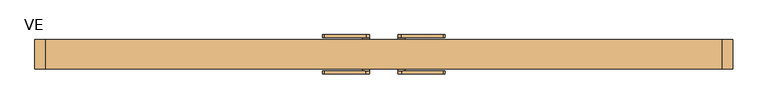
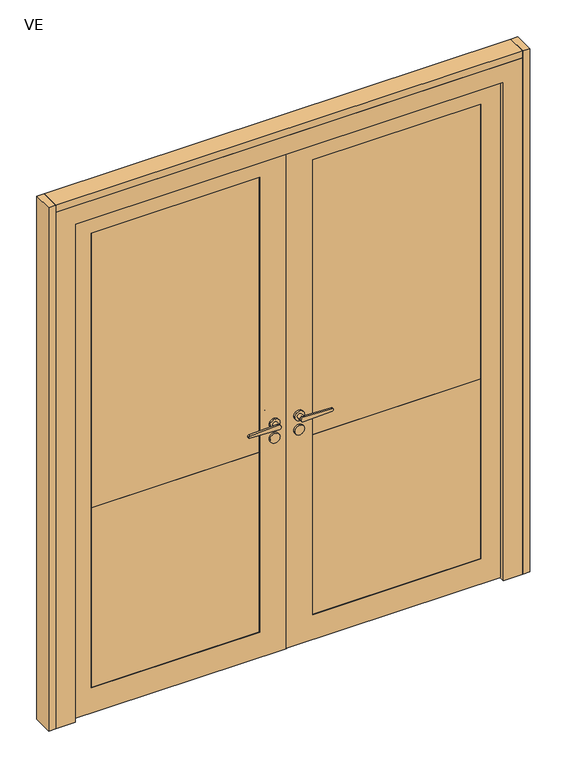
"""IFC4 building model written with IfcOpenShell, lengths in millimetres: door geometry, Mobiliário_Mobiliário de Escritório_Porta Dupla de Giro Mista Vidro Duplo com Persiana - VE_Marelli : VE."""

from ifc_helpers import new_model, si_unit, point, frame, frame_2d, origin, origin_with_axes, place, context, project, spatial, polyline, circle_curve, trimmed, segment, composite_curve, outline, extrude, faceted_brep, source, transform, mapped, element, save


def ve_1859068e(model_context):
    return source(origin(), model_context, "Body", "SolidModel", [
        extrude(outline(polyline([(-1000.0, 42.5), (-970.0, 42.5), (-970.0, -42.5), (-1000.0, -42.5), (-1000.0, 42.5)])), origin_with_axes(), (0.0, 0.0, 1.0), 2300.0),
        extrude(outline(polyline([(1000.0, 42.5), (1000.0, -42.5), (970.0, -42.5), (970.0, 42.5), (1000.0, 42.5)])), origin_with_axes(), (0.0, 0.0, 1.0), 2300.0),
        extrude(outline(polyline([(2219.5, 0.75), (0.5, 0.75), (0.5, 919.5), (2219.5, 919.5), (2219.5, 0.75)]), holes=[polyline([(110.5, 809.5), (110.5, 110.75), (2109.5, 110.75), (2109.5, 809.5), (110.5, 809.5)])]), frame((0.0, -21.0, 0.0), z_axis=(0.0, 1.0, 0.0), x_axis=(0.0, 0.0, 1.0)), (0.0, 0.0, 1.0), 42.0),
        extrude(outline(polyline([(809.5, 18.5), (809.5, 12.5), (110.75, 12.5), (110.75, 18.5), (809.5, 18.5)])), frame((0.0, 0.0, 900.5), z_axis=(0.0, 0.0, 1.0), x_axis=(1.0, 0.0, 0.0)), (0.0, 0.0, 1.0), 1209.0),
        extrude(outline(polyline([(809.5, -18.5), (110.75, -18.5), (110.75, -12.5), (809.5, -12.5), (809.5, -18.5)])), frame((0.0, 0.0, 900.5), z_axis=(0.0, 0.0, 1.0), x_axis=(1.0, 0.0, 0.0)), (0.0, 0.0, 1.0), 1209.0),
        extrude(outline(polyline([(2219.5, -0.75), (2219.5, -919.55), (0.5, -919.55), (0.5, -0.75), (2219.5, -0.75)]), holes=[polyline([(110.5, -809.55), (2109.5, -809.55), (2109.5, -110.75), (110.5, -110.75), (110.5, -809.55)])]), frame((0.0, -21.0, 0.0), z_axis=(0.0, 1.0, 0.0), x_axis=(0.0, 0.0, 1.0)), (0.0, 0.0, 1.0), 42.0),
        extrude(outline(polyline([(-809.55, 18.5), (-110.75, 18.5), (-110.75, 12.5), (-809.55, 12.5), (-809.55, 18.5)])), frame((0.0, 0.0, 900.5), z_axis=(0.0, 0.0, 1.0), x_axis=(1.0, 0.0, 0.0)), (0.0, 0.0, 1.0), 1209.0),
        extrude(outline(polyline([(-809.55, -18.5), (-809.55, -12.5), (-110.75, -12.5), (-110.75, -18.5), (-809.55, -18.5)])), frame((0.0, 0.0, 900.5), z_axis=(0.0, 0.0, 1.0), x_axis=(1.0, 0.0, 0.0)), (0.0, 0.0, 1.0), 1209.0),
        extrude(outline(polyline([(809.5, 6.8783978), (809.5, -9.1216022), (110.75, -9.1216022), (110.75, 6.8783978), (809.5, 6.8783978)])), frame((0.0, 0.0, 1190.7), z_axis=(0.0, 0.0, 1.0), x_axis=(1.0, 0.0, 0.0)), (0.0, 0.0, 1.0), 0.8),
        extrude(outline(polyline([(809.5, 6.8783978), (809.5, -9.1216022), (110.75, -9.1216022), (110.75, 6.8783978), (809.5, 6.8783978)])), frame((0.0, 0.0, 1160.7), z_axis=(0.0, 0.0, 1.0), x_axis=(1.0, 0.0, 0.0)), (0.0, 0.0, 1.0), 0.8),
        extrude(outline(polyline([(809.5, 6.8783978), (809.5, -9.1216022), (110.75, -9.1216022), (110.75, 6.8783978), (809.5, 6.8783978)])), frame((0.0, 0.0, 1130.7), z_axis=(0.0, 0.0, 1.0), x_axis=(1.0, 0.0, 0.0)), (0.0, 0.0, 1.0), 0.8),
        extrude(outline(polyline([(809.5, 6.8783978), (809.5, -9.1216022), (110.75, -9.1216022), (110.75, 6.8783978), (809.5, 6.8783978)])), frame((0.0, 0.0, 1100.7), z_axis=(0.0, 0.0, 1.0), x_axis=(1.0, 0.0, 0.0)), (0.0, 0.0, 1.0), 0.8),
        extrude(outline(polyline([(809.5, 6.8783978), (809.5, -9.1216022), (110.75, -9.1216022), (110.75, 6.8783978), (809.5, 6.8783978)])), frame((0.0, 0.0, 1070.7), z_axis=(0.0, 0.0, 1.0), x_axis=(1.0, 0.0, 0.0)), (0.0, 0.0, 1.0), 0.8),
        extrude(outline(polyline([(809.5, 6.8783978), (809.5, -9.1216022), (110.75, -9.1216022), (110.75, 6.8783978), (809.5, 6.8783978)])), frame((0.0, 0.0, 1040.7), z_axis=(0.0, 0.0, 1.0), x_axis=(1.0, 0.0, 0.0)), (0.0, 0.0, 1.0), 0.8),
        extrude(outline(polyline([(809.5, 6.8783978), (809.5, -9.1216022), (110.75, -9.1216022), (110.75, 6.8783978), (809.5, 6.8783978)])), frame((0.0, 0.0, 1010.7), z_axis=(0.0, 0.0, 1.0), x_axis=(1.0, 0.0, 0.0)), (0.0, 0.0, 1.0), 0.8),
        extrude(outline(polyline([(809.5, 6.8783978), (809.5, -9.1216022), (110.75, -9.1216022), (110.75, 6.8783978), (809.5, 6.8783978)])), frame((0.0, 0.0, 980.7), z_axis=(0.0, 0.0, 1.0), x_axis=(1.0, 0.0, 0.0)), (0.0, 0.0, 1.0), 0.8),
        extrude(outline(polyline([(809.5, 6.8783978), (809.5, -9.1216022), (110.75, -9.1216022), (110.75, 6.8783978), (809.5, 6.8783978)])), frame((0.0, 0.0, 950.7), z_axis=(0.0, 0.0, 1.0), x_axis=(1.0, 0.0, 0.0)), (0.0, 0.0, 1.0), 0.8),
        extrude(outline(polyline([(809.5, 6.8783978), (809.5, -9.1216022), (110.75, -9.1216022), (110.75, 6.8783978), (809.5, 6.8783978)])), frame((0.0, 0.0, 920.7), z_axis=(0.0, 0.0, 1.0), x_axis=(1.0, 0.0, 0.0)), (0.0, 0.0, 1.0), 0.8),
        extrude(outline(polyline([(809.5, 6.8783978), (809.5, -9.1216022), (110.75, -9.1216022), (110.75, 6.8783978), (809.5, 6.8783978)])), frame((0.0, 0.0, 2060.7), z_axis=(0.0, 0.0, 1.0), x_axis=(1.0, 0.0, 0.0)), (0.0, 0.0, 1.0), 0.8),
        extrude(outline(polyline([(809.5, 6.8783978), (809.5, -9.1216022), (110.75, -9.1216022), (110.75, 6.8783978), (809.5, 6.8783978)])), frame((0.0, 0.0, 2030.7), z_axis=(0.0, 0.0, 1.0), x_axis=(1.0, 0.0, 0.0)), (0.0, 0.0, 1.0), 0.8),
        extrude(outline(polyline([(809.5, 6.8783978), (809.5, -9.1216022), (110.75, -9.1216022), (110.75, 6.8783978), (809.5, 6.8783978)])), frame((0.0, 0.0, 2000.7), z_axis=(0.0, 0.0, 1.0), x_axis=(1.0, 0.0, 0.0)), (0.0, 0.0, 1.0), 0.8),
        extrude(outline(polyline([(809.5, 6.8783978), (809.5, -9.1216022), (110.75, -9.1216022), (110.75, 6.8783978), (809.5, 6.8783978)])), frame((0.0, 0.0, 1970.7), z_axis=(0.0, 0.0, 1.0), x_axis=(1.0, 0.0, 0.0)), (0.0, 0.0, 1.0), 0.8),
        extrude(outline(polyline([(809.5, 6.8783978), (809.5, -9.1216022), (110.75, -9.1216022), (110.75, 6.8783978), (809.5, 6.8783978)])), frame((0.0, 0.0, 1940.7), z_axis=(0.0, 0.0, 1.0), x_axis=(1.0, 0.0, 0.0)), (0.0, 0.0, 1.0), 0.8),
        extrude(outline(polyline([(809.5, 6.8783978), (809.5, -9.1216022), (110.75, -9.1216022), (110.75, 6.8783978), (809.5, 6.8783978)])), frame((0.0, 0.0, 1910.7), z_axis=(0.0, 0.0, 1.0), x_axis=(1.0, 0.0, 0.0)), (0.0, 0.0, 1.0), 0.8),
        extrude(outline(polyline([(809.5, 6.8783978), (809.5, -9.1216022), (110.75, -9.1216022), (110.75, 6.8783978), (809.5, 6.8783978)])), frame((0.0, 0.0, 1880.7), z_axis=(0.0, 0.0, 1.0), x_axis=(1.0, 0.0, 0.0)), (0.0, 0.0, 1.0), 0.8),
        extrude(outline(polyline([(809.5, 6.8783978), (809.5, -9.1216022), (110.75, -9.1216022), (110.75, 6.8783978), (809.5, 6.8783978)])), frame((0.0, 0.0, 1850.7), z_axis=(0.0, 0.0, 1.0), x_axis=(1.0, 0.0, 0.0)), (0.0, 0.0, 1.0), 0.8),
        extrude(outline(polyline([(809.5, 6.8783978), (809.5, -9.1216022), (110.75, -9.1216022), (110.75, 6.8783978), (809.5, 6.8783978)])), frame((0.0, 0.0, 1820.7), z_axis=(0.0, 0.0, 1.0), x_axis=(1.0, 0.0, 0.0)), (0.0, 0.0, 1.0), 0.8),
        extrude(outline(polyline([(809.5, 6.8783978), (809.5, -9.1216022), (110.75, -9.1216022), (110.75, 6.8783978), (809.5, 6.8783978)])), frame((0.0, 0.0, 1790.7), z_axis=(0.0, 0.0, 1.0), x_axis=(1.0, 0.0, 0.0)), (0.0, 0.0, 1.0), 0.8),
        extrude(outline(polyline([(809.5, 6.8783978), (809.5, -9.1216022), (110.75, -9.1216022), (110.75, 6.8783978), (809.5, 6.8783978)])), frame((0.0, 0.0, 1760.7), z_axis=(0.0, 0.0, 1.0), x_axis=(1.0, 0.0, 0.0)), (0.0, 0.0, 1.0), 0.8),
        extrude(outline(polyline([(809.5, 6.8783978), (809.5, -9.1216022), (110.75, -9.1216022), (110.75, 6.8783978), (809.5, 6.8783978)])), frame((0.0, 0.0, 1730.7), z_axis=(0.0, 0.0, 1.0), x_axis=(1.0, 0.0, 0.0)), (0.0, 0.0, 1.0), 0.8),
        extrude(outline(polyline([(809.5, 6.8783978), (809.5, -9.1216022), (110.75, -9.1216022), (110.75, 6.8783978), (809.5, 6.8783978)])), frame((0.0, 0.0, 1700.7), z_axis=(0.0, 0.0, 1.0), x_axis=(1.0, 0.0, 0.0)), (0.0, 0.0, 1.0), 0.8),
        extrude(outline(polyline([(809.5, 6.8783978), (809.5, -9.1216022), (110.75, -9.1216022), (110.75, 6.8783978), (809.5, 6.8783978)])), frame((0.0, 0.0, 1670.7), z_axis=(0.0, 0.0, 1.0), x_axis=(1.0, 0.0, 0.0)), (0.0, 0.0, 1.0), 0.8),
        extrude(outline(polyline([(809.5, 6.8783978), (809.5, -9.1216022), (110.75, -9.1216022), (110.75, 6.8783978), (809.5, 6.8783978)])), frame((0.0, 0.0, 1640.7), z_axis=(0.0, 0.0, 1.0), x_axis=(1.0, 0.0, 0.0)), (0.0, 0.0, 1.0), 0.8),
        extrude(outline(polyline([(809.5, 6.8783978), (809.5, -9.1216022), (110.75, -9.1216022), (110.75, 6.8783978), (809.5, 6.8783978)])), frame((0.0, 0.0, 1610.7), z_axis=(0.0, 0.0, 1.0), x_axis=(1.0, 0.0, 0.0)), (0.0, 0.0, 1.0), 0.8),
        extrude(outline(polyline([(809.5, 6.8783978), (809.5, -9.1216022), (110.75, -9.1216022), (110.75, 6.8783978), (809.5, 6.8783978)])), frame((0.0, 0.0, 1580.7), z_axis=(0.0, 0.0, 1.0), x_axis=(1.0, 0.0, 0.0)), (0.0, 0.0, 1.0), 0.8),
        extrude(outline(polyline([(809.5, 6.8783978), (809.5, -9.1216022), (110.75, -9.1216022), (110.75, 6.8783978), (809.5, 6.8783978)])), frame((0.0, 0.0, 1550.7), z_axis=(0.0, 0.0, 1.0), x_axis=(1.0, 0.0, 0.0)), (0.0, 0.0, 1.0), 0.8),
        extrude(outline(polyline([(809.5, 6.8783978), (809.5, -9.1216022), (110.75, -9.1216022), (110.75, 6.8783978), (809.5, 6.8783978)])), frame((0.0, 0.0, 1520.7), z_axis=(0.0, 0.0, 1.0), x_axis=(1.0, 0.0, 0.0)), (0.0, 0.0, 1.0), 0.8),
        extrude(outline(polyline([(809.5, 6.8783978), (809.5, -9.1216022), (110.75, -9.1216022), (110.75, 6.8783978), (809.5, 6.8783978)])), frame((0.0, 0.0, 1490.7), z_axis=(0.0, 0.0, 1.0), x_axis=(1.0, 0.0, 0.0)), (0.0, 0.0, 1.0), 0.8),
        extrude(outline(polyline([(809.5, 6.8783978), (809.5, -9.1216022), (110.75, -9.1216022), (110.75, 6.8783978), (809.5, 6.8783978)])), frame((0.0, 0.0, 1460.7), z_axis=(0.0, 0.0, 1.0), x_axis=(1.0, 0.0, 0.0)), (0.0, 0.0, 1.0), 0.8),
        extrude(outline(polyline([(809.5, 6.8783978), (809.5, -9.1216022), (110.75, -9.1216022), (110.75, 6.8783978), (809.5, 6.8783978)])), frame((0.0, 0.0, 1430.7), z_axis=(0.0, 0.0, 1.0), x_axis=(1.0, 0.0, 0.0)), (0.0, 0.0, 1.0), 0.8),
        extrude(outline(polyline([(809.5, 6.8783978), (809.5, -9.1216022), (110.75, -9.1216022), (110.75, 6.8783978), (809.5, 6.8783978)])), frame((0.0, 0.0, 1400.7), z_axis=(0.0, 0.0, 1.0), x_axis=(1.0, 0.0, 0.0)), (0.0, 0.0, 1.0), 0.8),
        extrude(outline(polyline([(809.5, 6.8783978), (809.5, -9.1216022), (110.75, -9.1216022), (110.75, 6.8783978), (809.5, 6.8783978)])), frame((0.0, 0.0, 1370.7), z_axis=(0.0, 0.0, 1.0), x_axis=(1.0, 0.0, 0.0)), (0.0, 0.0, 1.0), 0.8),
        extrude(outline(polyline([(809.5, 6.8783978), (809.5, -9.1216022), (110.75, -9.1216022), (110.75, 6.8783978), (809.5, 6.8783978)])), frame((0.0, 0.0, 1340.7), z_axis=(0.0, 0.0, 1.0), x_axis=(1.0, 0.0, 0.0)), (0.0, 0.0, 1.0), 0.8),
        extrude(outline(polyline([(809.5, 6.8783978), (809.5, -9.1216022), (110.75, -9.1216022), (110.75, 6.8783978), (809.5, 6.8783978)])), frame((0.0, 0.0, 1310.7), z_axis=(0.0, 0.0, 1.0), x_axis=(1.0, 0.0, 0.0)), (0.0, 0.0, 1.0), 0.8),
        extrude(outline(polyline([(809.5, 6.8783978), (809.5, -9.1216022), (110.75, -9.1216022), (110.75, 6.8783978), (809.5, 6.8783978)])), frame((0.0, 0.0, 1280.7), z_axis=(0.0, 0.0, 1.0), x_axis=(1.0, 0.0, 0.0)), (0.0, 0.0, 1.0), 0.8),
        extrude(outline(polyline([(809.5, 6.8783978), (809.5, -9.1216022), (110.75, -9.1216022), (110.75, 6.8783978), (809.5, 6.8783978)])), frame((0.0, 0.0, 1250.7), z_axis=(0.0, 0.0, 1.0), x_axis=(1.0, 0.0, 0.0)), (0.0, 0.0, 1.0), 0.8),
        extrude(outline(polyline([(809.5, 6.8783978), (809.5, -9.1216022), (110.75, -9.1216022), (110.75, 6.8783978), (809.5, 6.8783978)])), frame((0.0, 0.0, 1220.7), z_axis=(0.0, 0.0, 1.0), x_axis=(1.0, 0.0, 0.0)), (0.0, 0.0, 1.0), 0.8),
        extrude(outline(polyline([(-809.55, -9.1216022), (-809.55, 6.8783978), (-110.75, 6.8783978), (-110.75, -9.1216022), (-809.55, -9.1216022)])), frame((0.0, 0.0, 1190.7), z_axis=(0.0, 0.0, 1.0), x_axis=(1.0, 0.0, 0.0)), (0.0, 0.0, 1.0), 0.8),
        extrude(outline(polyline([(-809.55, -9.1216022), (-809.55, 6.8783978), (-110.75, 6.8783978), (-110.75, -9.1216022), (-809.55, -9.1216022)])), frame((0.0, 0.0, 1160.7), z_axis=(0.0, 0.0, 1.0), x_axis=(1.0, 0.0, 0.0)), (0.0, 0.0, 1.0), 0.8),
        extrude(outline(polyline([(-809.55, -9.1216022), (-809.55, 6.8783978), (-110.75, 6.8783978), (-110.75, -9.1216022), (-809.55, -9.1216022)])), frame((0.0, 0.0, 1130.7), z_axis=(0.0, 0.0, 1.0), x_axis=(1.0, 0.0, 0.0)), (0.0, 0.0, 1.0), 0.8),
        extrude(outline(polyline([(-809.55, -9.1216022), (-809.55, 6.8783978), (-110.75, 6.8783978), (-110.75, -9.1216022), (-809.55, -9.1216022)])), frame((0.0, 0.0, 1100.7), z_axis=(0.0, 0.0, 1.0), x_axis=(1.0, 0.0, 0.0)), (0.0, 0.0, 1.0), 0.8),
        extrude(outline(polyline([(-809.55, -9.1216022), (-809.55, 6.8783978), (-110.75, 6.8783978), (-110.75, -9.1216022), (-809.55, -9.1216022)])), frame((0.0, 0.0, 1070.7), z_axis=(0.0, 0.0, 1.0), x_axis=(1.0, 0.0, 0.0)), (0.0, 0.0, 1.0), 0.8),
        extrude(outline(polyline([(-809.55, -9.1216022), (-809.55, 6.8783978), (-110.75, 6.8783978), (-110.75, -9.1216022), (-809.55, -9.1216022)])), frame((0.0, 0.0, 1040.7), z_axis=(0.0, 0.0, 1.0), x_axis=(1.0, 0.0, 0.0)), (0.0, 0.0, 1.0), 0.8),
        extrude(outline(polyline([(-809.55, -9.1216022), (-809.55, 6.8783978), (-110.75, 6.8783978), (-110.75, -9.1216022), (-809.55, -9.1216022)])), frame((0.0, 0.0, 1010.7), z_axis=(0.0, 0.0, 1.0), x_axis=(1.0, 0.0, 0.0)), (0.0, 0.0, 1.0), 0.8),
        extrude(outline(polyline([(-809.55, -9.1216022), (-809.55, 6.8783978), (-110.75, 6.8783978), (-110.75, -9.1216022), (-809.55, -9.1216022)])), frame((0.0, 0.0, 980.7), z_axis=(0.0, 0.0, 1.0), x_axis=(1.0, 0.0, 0.0)), (0.0, 0.0, 1.0), 0.8),
        extrude(outline(polyline([(-809.55, -9.1216022), (-809.55, 6.8783978), (-110.75, 6.8783978), (-110.75, -9.1216022), (-809.55, -9.1216022)])), frame((0.0, 0.0, 950.7), z_axis=(0.0, 0.0, 1.0), x_axis=(1.0, 0.0, 0.0)), (0.0, 0.0, 1.0), 0.8),
        extrude(outline(polyline([(-809.55, -9.1216022), (-809.55, 6.8783978), (-110.75, 6.8783978), (-110.75, -9.1216022), (-809.55, -9.1216022)])), frame((0.0, 0.0, 920.7), z_axis=(0.0, 0.0, 1.0), x_axis=(1.0, 0.0, 0.0)), (0.0, 0.0, 1.0), 0.8),
        extrude(outline(polyline([(-809.55, -9.1216022), (-809.55, 6.8783978), (-110.75, 6.8783978), (-110.75, -9.1216022), (-809.55, -9.1216022)])), frame((0.0, 0.0, 2060.7), z_axis=(0.0, 0.0, 1.0), x_axis=(1.0, 0.0, 0.0)), (0.0, 0.0, 1.0), 0.8),
        extrude(outline(polyline([(-809.55, -9.1216022), (-809.55, 6.8783978), (-110.75, 6.8783978), (-110.75, -9.1216022), (-809.55, -9.1216022)])), frame((0.0, 0.0, 2030.7), z_axis=(0.0, 0.0, 1.0), x_axis=(1.0, 0.0, 0.0)), (0.0, 0.0, 1.0), 0.8),
        extrude(outline(polyline([(-809.55, -9.1216022), (-809.55, 6.8783978), (-110.75, 6.8783978), (-110.75, -9.1216022), (-809.55, -9.1216022)])), frame((0.0, 0.0, 2000.7), z_axis=(0.0, 0.0, 1.0), x_axis=(1.0, 0.0, 0.0)), (0.0, 0.0, 1.0), 0.8),
        extrude(outline(polyline([(-809.55, -9.1216022), (-809.55, 6.8783978), (-110.75, 6.8783978), (-110.75, -9.1216022), (-809.55, -9.1216022)])), frame((0.0, 0.0, 1970.7), z_axis=(0.0, 0.0, 1.0), x_axis=(1.0, 0.0, 0.0)), (0.0, 0.0, 1.0), 0.8),
        extrude(outline(polyline([(-809.55, -9.1216022), (-809.55, 6.8783978), (-110.75, 6.8783978), (-110.75, -9.1216022), (-809.55, -9.1216022)])), frame((0.0, 0.0, 1940.7), z_axis=(0.0, 0.0, 1.0), x_axis=(1.0, 0.0, 0.0)), (0.0, 0.0, 1.0), 0.8),
        extrude(outline(polyline([(-809.55, -9.1216022), (-809.55, 6.8783978), (-110.75, 6.8783978), (-110.75, -9.1216022), (-809.55, -9.1216022)])), frame((0.0, 0.0, 1910.7), z_axis=(0.0, 0.0, 1.0), x_axis=(1.0, 0.0, 0.0)), (0.0, 0.0, 1.0), 0.8),
        extrude(outline(polyline([(-809.55, -9.1216022), (-809.55, 6.8783978), (-110.75, 6.8783978), (-110.75, -9.1216022), (-809.55, -9.1216022)])), frame((0.0, 0.0, 1880.7), z_axis=(0.0, 0.0, 1.0), x_axis=(1.0, 0.0, 0.0)), (0.0, 0.0, 1.0), 0.8),
        extrude(outline(polyline([(-809.55, -9.1216022), (-809.55, 6.8783978), (-110.75, 6.8783978), (-110.75, -9.1216022), (-809.55, -9.1216022)])), frame((0.0, 0.0, 1850.7), z_axis=(0.0, 0.0, 1.0), x_axis=(1.0, 0.0, 0.0)), (0.0, 0.0, 1.0), 0.8),
        extrude(outline(polyline([(-809.55, -9.1216022), (-809.55, 6.8783978), (-110.75, 6.8783978), (-110.75, -9.1216022), (-809.55, -9.1216022)])), frame((0.0, 0.0, 1820.7), z_axis=(0.0, 0.0, 1.0), x_axis=(1.0, 0.0, 0.0)), (0.0, 0.0, 1.0), 0.8),
        extrude(outline(polyline([(-809.55, -9.1216022), (-809.55, 6.8783978), (-110.75, 6.8783978), (-110.75, -9.1216022), (-809.55, -9.1216022)])), frame((0.0, 0.0, 1790.7), z_axis=(0.0, 0.0, 1.0), x_axis=(1.0, 0.0, 0.0)), (0.0, 0.0, 1.0), 0.8),
        extrude(outline(polyline([(-809.55, -9.1216022), (-809.55, 6.8783978), (-110.75, 6.8783978), (-110.75, -9.1216022), (-809.55, -9.1216022)])), frame((0.0, 0.0, 1760.7), z_axis=(0.0, 0.0, 1.0), x_axis=(1.0, 0.0, 0.0)), (0.0, 0.0, 1.0), 0.8),
        extrude(outline(polyline([(-809.55, -9.1216022), (-809.55, 6.8783978), (-110.75, 6.8783978), (-110.75, -9.1216022), (-809.55, -9.1216022)])), frame((0.0, 0.0, 1730.7), z_axis=(0.0, 0.0, 1.0), x_axis=(1.0, 0.0, 0.0)), (0.0, 0.0, 1.0), 0.8),
        extrude(outline(polyline([(-809.55, -9.1216022), (-809.55, 6.8783978), (-110.75, 6.8783978), (-110.75, -9.1216022), (-809.55, -9.1216022)])), frame((0.0, 0.0, 1700.7), z_axis=(0.0, 0.0, 1.0), x_axis=(1.0, 0.0, 0.0)), (0.0, 0.0, 1.0), 0.8),
        extrude(outline(polyline([(-809.55, -9.1216022), (-809.55, 6.8783978), (-110.75, 6.8783978), (-110.75, -9.1216022), (-809.55, -9.1216022)])), frame((0.0, 0.0, 1670.7), z_axis=(0.0, 0.0, 1.0), x_axis=(1.0, 0.0, 0.0)), (0.0, 0.0, 1.0), 0.8),
        extrude(outline(polyline([(-809.55, -9.1216022), (-809.55, 6.8783978), (-110.75, 6.8783978), (-110.75, -9.1216022), (-809.55, -9.1216022)])), frame((0.0, 0.0, 1640.7), z_axis=(0.0, 0.0, 1.0), x_axis=(1.0, 0.0, 0.0)), (0.0, 0.0, 1.0), 0.8),
        extrude(outline(polyline([(-809.55, -9.1216022), (-809.55, 6.8783978), (-110.75, 6.8783978), (-110.75, -9.1216022), (-809.55, -9.1216022)])), frame((0.0, 0.0, 1610.7), z_axis=(0.0, 0.0, 1.0), x_axis=(1.0, 0.0, 0.0)), (0.0, 0.0, 1.0), 0.8),
        extrude(outline(polyline([(-809.55, -9.1216022), (-809.55, 6.8783978), (-110.75, 6.8783978), (-110.75, -9.1216022), (-809.55, -9.1216022)])), frame((0.0, 0.0, 1580.7), z_axis=(0.0, 0.0, 1.0), x_axis=(1.0, 0.0, 0.0)), (0.0, 0.0, 1.0), 0.8),
        extrude(outline(polyline([(-809.55, -9.1216022), (-809.55, 6.8783978), (-110.75, 6.8783978), (-110.75, -9.1216022), (-809.55, -9.1216022)])), frame((0.0, 0.0, 1550.7), z_axis=(0.0, 0.0, 1.0), x_axis=(1.0, 0.0, 0.0)), (0.0, 0.0, 1.0), 0.8),
        extrude(outline(polyline([(-809.55, -9.1216022), (-809.55, 6.8783978), (-110.75, 6.8783978), (-110.75, -9.1216022), (-809.55, -9.1216022)])), frame((0.0, 0.0, 1520.7), z_axis=(0.0, 0.0, 1.0), x_axis=(1.0, 0.0, 0.0)), (0.0, 0.0, 1.0), 0.8),
        extrude(outline(polyline([(-809.55, -9.1216022), (-809.55, 6.8783978), (-110.75, 6.8783978), (-110.75, -9.1216022), (-809.55, -9.1216022)])), frame((0.0, 0.0, 1490.7), z_axis=(0.0, 0.0, 1.0), x_axis=(1.0, 0.0, 0.0)), (0.0, 0.0, 1.0), 0.8),
        extrude(outline(polyline([(-809.55, -9.1216022), (-809.55, 6.8783978), (-110.75, 6.8783978), (-110.75, -9.1216022), (-809.55, -9.1216022)])), frame((0.0, 0.0, 1460.7), z_axis=(0.0, 0.0, 1.0), x_axis=(1.0, 0.0, 0.0)), (0.0, 0.0, 1.0), 0.8),
        extrude(outline(polyline([(-809.55, -9.1216022), (-809.55, 6.8783978), (-110.75, 6.8783978), (-110.75, -9.1216022), (-809.55, -9.1216022)])), frame((0.0, 0.0, 1430.7), z_axis=(0.0, 0.0, 1.0), x_axis=(1.0, 0.0, 0.0)), (0.0, 0.0, 1.0), 0.8),
        extrude(outline(polyline([(-809.55, -9.1216022), (-809.55, 6.8783978), (-110.75, 6.8783978), (-110.75, -9.1216022), (-809.55, -9.1216022)])), frame((0.0, 0.0, 1400.7), z_axis=(0.0, 0.0, 1.0), x_axis=(1.0, 0.0, 0.0)), (0.0, 0.0, 1.0), 0.8),
        extrude(outline(polyline([(-809.55, -9.1216022), (-809.55, 6.8783978), (-110.75, 6.8783978), (-110.75, -9.1216022), (-809.55, -9.1216022)])), frame((0.0, 0.0, 1370.7), z_axis=(0.0, 0.0, 1.0), x_axis=(1.0, 0.0, 0.0)), (0.0, 0.0, 1.0), 0.8),
        extrude(outline(polyline([(-809.55, -9.1216022), (-809.55, 6.8783978), (-110.75, 6.8783978), (-110.75, -9.1216022), (-809.55, -9.1216022)])), frame((0.0, 0.0, 1340.7), z_axis=(0.0, 0.0, 1.0), x_axis=(1.0, 0.0, 0.0)), (0.0, 0.0, 1.0), 0.8),
        extrude(outline(polyline([(-809.55, -9.1216022), (-809.55, 6.8783978), (-110.75, 6.8783978), (-110.75, -9.1216022), (-809.55, -9.1216022)])), frame((0.0, 0.0, 1310.7), z_axis=(0.0, 0.0, 1.0), x_axis=(1.0, 0.0, 0.0)), (0.0, 0.0, 1.0), 0.8),
        extrude(outline(polyline([(-809.55, -9.1216022), (-809.55, 6.8783978), (-110.75, 6.8783978), (-110.75, -9.1216022), (-809.55, -9.1216022)])), frame((0.0, 0.0, 1280.7), z_axis=(0.0, 0.0, 1.0), x_axis=(1.0, 0.0, 0.0)), (0.0, 0.0, 1.0), 0.8),
        extrude(outline(polyline([(-809.55, -9.1216022), (-809.55, 6.8783978), (-110.75, 6.8783978), (-110.75, -9.1216022), (-809.55, -9.1216022)])), frame((0.0, 0.0, 1250.7), z_axis=(0.0, 0.0, 1.0), x_axis=(1.0, 0.0, 0.0)), (0.0, 0.0, 1.0), 0.8),
        extrude(outline(polyline([(-809.55, -9.1216022), (-809.55, 6.8783978), (-110.75, 6.8783978), (-110.75, -9.1216022), (-809.55, -9.1216022)])), frame((0.0, 0.0, 1220.7), z_axis=(0.0, 0.0, 1.0), x_axis=(1.0, 0.0, 0.0)), (0.0, 0.0, 1.0), 0.8),
        extrude(outline(polyline([(970.0, 42.5), (970.0, -42.5), (-970.0, -42.5), (-970.0, 42.5), (970.0, 42.5)])), frame((0.0, 0.0, 2270.0), z_axis=(0.0, 0.0, 1.0), x_axis=(1.0, 0.0, 0.0)), (0.0, 0.0, 1.0), 30.0),
        extrude(outline(polyline([(809.5, 12.5), (809.5, -12.5), (110.75, -12.5), (110.75, 12.5), (809.5, 12.5)])), frame((0.0, 0.0, 2076.5), z_axis=(0.0, 0.0, 1.0), x_axis=(1.0, 0.0, 0.0)), (0.0, 0.0, 1.0), 25.0),
        extrude(outline(polyline([(-809.55, -12.5), (-809.55, 12.5), (-110.75, 12.5), (-110.75, -12.5), (-809.55, -12.5)])), frame((0.0, 0.0, 2076.5), z_axis=(0.0, 0.0, 1.0), x_axis=(1.0, 0.0, 0.0)), (0.0, 0.0, 1.0), 25.0),
        faceted_brep([(-970.0, -42.5, 2270.0), (-970.0, -42.5, 0.0), (-890.0, -42.5, 0.0), (-890.0, -42.5, 2190.0), (890.0, -42.5, 2190.0), (890.0, -42.5, 0.0), (970.0, -42.5, 0.0), (970.0, -42.5, 2270.0), (-970.0, 42.5, 2270.0), (-970.0, 42.5, 0.0), (890.0, -21.5, 0.0), (920.0, -21.5, 0.0), (920.0, 42.5, 0.0), (970.0, 42.5, 0.0), (-920.0, 42.5, 0.0), (-920.0, -21.5, 0.0), (-890.0, -21.5, 0.0), (-890.0, -21.5, 2190.0), (890.0, -21.5, 2190.0), (970.0, 42.5, 2270.0), (-920.0, -21.5, 2220.0), (920.0, -21.5, 2220.0), (-920.0, 42.5, 2220.0), (920.0, 42.5, 2220.0)], [[[0, 1, 2, 3, 4, 5, 6, 7]], [[0, 8, 9, 1]], [[6, 5, 10, 11, 12, 13]], [[1, 9, 14, 15, 16, 2]], [[2, 16, 17, 3]], [[10, 5, 4, 18]], [[19, 7, 6, 13]], [[18, 17, 16, 15, 20, 21, 11, 10]], [[20, 15, 14, 22]], [[12, 11, 21, 23]], [[23, 22, 14, 9, 8, 19, 13, 12]], [[4, 3, 17, 18]], [[22, 23, 21, 20]], [[19, 8, 0, 7]]]),
        extrude(outline(polyline([(809.5, 18.5), (809.5, -18.5), (110.75, -18.5), (110.75, 18.5), (809.5, 18.5)])), frame((0.0, 0.0, 110.5), z_axis=(0.0, 0.0, 1.0), x_axis=(1.0, 0.0, 0.0)), (0.0, 0.0, 1.0), 790.0),
        extrude(outline(polyline([(-809.55, 18.5), (-110.75, 18.5), (-110.75, -18.5), (-809.55, -18.5), (-809.55, 18.5)])), frame((0.0, 0.0, 110.5), z_axis=(0.0, 0.0, 1.0), x_axis=(1.0, 0.0, 0.0)), (0.0, 0.0, 1.0), 790.0),
        extrude(outline(composite_curve([segment(trimmed(circle_curve(frame_2d((1010.0, -51.05)), 20.8), [point((1010.0, -71.85))], [point((1010.0, -30.25))], False, "CARTESIAN"), True, "CONTINUOUS"), segment(trimmed(circle_curve(frame_2d((1010.0, -51.05)), 20.8), [point((1010.0, -30.25))], [point((1010.0, -71.85))], False, "CARTESIAN"), True, "CONTINUOUS")], self_intersect=False)), frame((0.0, 21.0, 0.0), z_axis=(0.0, 1.0, 0.0), x_axis=(0.0, 0.0, 1.0)), (0.0, 0.0, 1.0), 8.0),
        extrude(outline(composite_curve([segment(trimmed(circle_curve(frame_2d((947.58, -51.05)), 20.8), [point((947.58, -71.85))], [point((947.58, -30.25))], False, "CARTESIAN"), True, "CONTINUOUS"), segment(trimmed(circle_curve(frame_2d((947.58, -51.05)), 20.8), [point((947.58, -30.25))], [point((947.58, -71.85))], False, "CARTESIAN"), True, "CONTINUOUS")], self_intersect=False)), frame((0.0, 21.0, 0.0), z_axis=(0.0, 1.0, 0.0), x_axis=(0.0, 0.0, 1.0)), (0.0, 0.0, 1.0), 8.0),
        extrude(outline(composite_curve([segment(trimmed(circle_curve(frame_2d((1010.0, -51.05)), 20.8), [point((1010.0, -71.85))], [point((1010.0, -30.25))], False, "CARTESIAN"), True, "CONTINUOUS"), segment(trimmed(circle_curve(frame_2d((1010.0, -51.05)), 20.8), [point((1010.0, -30.25))], [point((1010.0, -71.85))], False, "CARTESIAN"), True, "CONTINUOUS")], self_intersect=False)), frame((0.0, -29.0, 0.0), z_axis=(0.0, 1.0, 0.0), x_axis=(0.0, 0.0, 1.0)), (0.0, 0.0, 1.0), 8.0),
        extrude(outline(composite_curve([segment(trimmed(circle_curve(frame_2d((947.58, -51.05)), 20.8), [point((947.58, -71.85))], [point((947.58, -30.25))], False, "CARTESIAN"), True, "CONTINUOUS"), segment(trimmed(circle_curve(frame_2d((947.58, -51.05)), 20.8), [point((947.58, -30.25))], [point((947.58, -71.85))], False, "CARTESIAN"), True, "CONTINUOUS")], self_intersect=False)), frame((0.0, -29.0, 0.0), z_axis=(0.0, 1.0, 0.0), x_axis=(0.0, 0.0, 1.0)), (0.0, 0.0, 1.0), 8.0),
        extrude(outline(composite_curve([segment(trimmed(circle_curve(frame_2d((1010.0, -51.05)), 10.0), [point((1000.0, -51.05))], [point((1020.0, -51.05))], False, "CARTESIAN"), True, "CONTINUOUS"), segment(polyline([(1020.0, -51.05), (1014.970724, -171.1849324)]), True, "CONTINUOUS"), segment(trimmed(circle_curve(frame_2d((1010.0145906, -171.1849324)), 4.9561334), [point((1014.970724, -171.1849324))], [point((1005.0584573, -171.1849324))], False, "CARTESIAN"), True, "CONTINUOUS"), segment(polyline([(1005.0584573, -171.1849324), (1000.0, -51.05)]), True, "CONTINUOUS")], self_intersect=False)), frame((0.0, 48.0, 0.0), z_axis=(0.0, 1.0, 0.0), x_axis=(0.0, 0.0, 1.0)), (0.0, 0.0, 1.0), 8.0),
        extrude(outline(composite_curve([segment(trimmed(circle_curve(frame_2d((1010.0, -51.05)), 10.0), [point((1010.0, -61.05))], [point((1010.0, -41.05))], False, "CARTESIAN"), True, "CONTINUOUS"), segment(trimmed(circle_curve(frame_2d((1010.0, -51.05)), 10.0), [point((1010.0, -41.05))], [point((1010.0, -61.05))], False, "CARTESIAN"), True, "CONTINUOUS")], self_intersect=False)), frame((0.0, -48.0, 0.0), z_axis=(0.0, 1.0, 0.0), x_axis=(0.0, 0.0, 1.0)), (0.0, 0.0, 1.0), 19.0),
        extrude(outline(composite_curve([segment(trimmed(circle_curve(frame_2d((1010.0, -51.05)), 10.0), [point((1010.0, -61.05))], [point((1010.0, -41.05))], False, "CARTESIAN"), True, "CONTINUOUS"), segment(trimmed(circle_curve(frame_2d((1010.0, -51.05)), 10.0), [point((1010.0, -41.05))], [point((1010.0, -61.05))], False, "CARTESIAN"), True, "CONTINUOUS")], self_intersect=False)), frame((0.0, 29.0, 0.0), z_axis=(0.0, 1.0, 0.0), x_axis=(0.0, 0.0, 1.0)), (0.0, 0.0, 1.0), 19.0),
        extrude(outline(composite_curve([segment(trimmed(circle_curve(frame_2d((1010.0145906, -171.1849324)), 4.9561334), [point((1014.970724, -171.1849324))], [point((1005.0584573, -171.1849324))], False, "CARTESIAN"), True, "CONTINUOUS"), segment(polyline([(1005.0584573, -171.1849324), (1000.0, -51.05)]), True, "CONTINUOUS"), segment(trimmed(circle_curve(frame_2d((1010.0, -51.05)), 10.0), [point((1000.0, -51.05))], [point((1020.0, -51.05))], False, "CARTESIAN"), True, "CONTINUOUS"), segment(polyline([(1020.0, -51.05), (1014.970724, -171.1849324)]), True, "CONTINUOUS")], self_intersect=False)), frame((0.0, -56.0, 0.0), z_axis=(0.0, 1.0, 0.0), x_axis=(0.0, 0.0, 1.0)), (0.0, 0.0, 1.0), 8.0),
        extrude(outline(composite_curve([segment(trimmed(circle_curve(frame_2d((1010.0, 51.05)), 20.8), [point((1010.0, 71.85))], [point((1010.0, 30.25))], False, "CARTESIAN"), True, "CONTINUOUS"), segment(trimmed(circle_curve(frame_2d((1010.0, 51.05)), 20.8), [point((1010.0, 30.25))], [point((1010.0, 71.85))], False, "CARTESIAN"), True, "CONTINUOUS")], self_intersect=False)), frame((0.0, 21.0, 0.0), z_axis=(0.0, 1.0, 0.0), x_axis=(0.0, 0.0, 1.0)), (0.0, 0.0, 1.0), 8.0),
        extrude(outline(composite_curve([segment(trimmed(circle_curve(frame_2d((947.58, 51.05)), 20.8), [point((947.58, 71.85))], [point((947.58, 30.25))], False, "CARTESIAN"), True, "CONTINUOUS"), segment(trimmed(circle_curve(frame_2d((947.58, 51.05)), 20.8), [point((947.58, 30.25))], [point((947.58, 71.85))], False, "CARTESIAN"), True, "CONTINUOUS")], self_intersect=False)), frame((0.0, 21.0, 0.0), z_axis=(0.0, 1.0, 0.0), x_axis=(0.0, 0.0, 1.0)), (0.0, 0.0, 1.0), 8.0),
        extrude(outline(composite_curve([segment(trimmed(circle_curve(frame_2d((1010.0, 51.05)), 20.8), [point((1010.0, 71.85))], [point((1010.0, 30.25))], False, "CARTESIAN"), True, "CONTINUOUS"), segment(trimmed(circle_curve(frame_2d((1010.0, 51.05)), 20.8), [point((1010.0, 30.25))], [point((1010.0, 71.85))], False, "CARTESIAN"), True, "CONTINUOUS")], self_intersect=False)), frame((0.0, -29.0, 0.0), z_axis=(0.0, 1.0, 0.0), x_axis=(0.0, 0.0, 1.0)), (0.0, 0.0, 1.0), 8.0),
        extrude(outline(composite_curve([segment(trimmed(circle_curve(frame_2d((947.58, 51.05)), 20.8), [point((947.58, 71.85))], [point((947.58, 30.25))], False, "CARTESIAN"), True, "CONTINUOUS"), segment(trimmed(circle_curve(frame_2d((947.58, 51.05)), 20.8), [point((947.58, 30.25))], [point((947.58, 71.85))], False, "CARTESIAN"), True, "CONTINUOUS")], self_intersect=False)), frame((0.0, -29.0, 0.0), z_axis=(0.0, 1.0, 0.0), x_axis=(0.0, 0.0, 1.0)), (0.0, 0.0, 1.0), 8.0),
        extrude(outline(composite_curve([segment(polyline([(1000.0, 51.05), (1005.0584573, 171.1849324)]), True, "CONTINUOUS"), segment(trimmed(circle_curve(frame_2d((1010.0145906, 171.1849324)), 4.9561334), [point((1005.0584573, 171.1849324))], [point((1014.970724, 171.1849324))], False, "CARTESIAN"), True, "CONTINUOUS"), segment(polyline([(1014.970724, 171.1849324), (1020.0, 51.05)]), True, "CONTINUOUS"), segment(trimmed(circle_curve(frame_2d((1010.0, 51.05)), 10.0), [point((1020.0, 51.05))], [point((1000.0, 51.05))], False, "CARTESIAN"), True, "CONTINUOUS")], self_intersect=False)), frame((0.0, 48.0, 0.0), z_axis=(0.0, 1.0, 0.0), x_axis=(0.0, 0.0, 1.0)), (0.0, 0.0, 1.0), 8.0),
        extrude(outline(composite_curve([segment(trimmed(circle_curve(frame_2d((1010.0, 51.05)), 10.0), [point((1010.0, 61.05))], [point((1010.0, 41.05))], False, "CARTESIAN"), True, "CONTINUOUS"), segment(trimmed(circle_curve(frame_2d((1010.0, 51.05)), 10.0), [point((1010.0, 41.05))], [point((1010.0, 61.05))], False, "CARTESIAN"), True, "CONTINUOUS")], self_intersect=False)), frame((0.0, -48.0, 0.0), z_axis=(0.0, 1.0, 0.0), x_axis=(0.0, 0.0, 1.0)), (0.0, 0.0, 1.0), 19.0),
        extrude(outline(composite_curve([segment(trimmed(circle_curve(frame_2d((1010.0, 51.05)), 10.0), [point((1010.0, 61.05))], [point((1010.0, 41.05))], False, "CARTESIAN"), True, "CONTINUOUS"), segment(trimmed(circle_curve(frame_2d((1010.0, 51.05)), 10.0), [point((1010.0, 41.05))], [point((1010.0, 61.05))], False, "CARTESIAN"), True, "CONTINUOUS")], self_intersect=False)), frame((0.0, 29.0, 0.0), z_axis=(0.0, 1.0, 0.0), x_axis=(0.0, 0.0, 1.0)), (0.0, 0.0, 1.0), 19.0),
        extrude(outline(composite_curve([segment(polyline([(1014.970724, 171.1849324), (1020.0, 51.05)]), True, "CONTINUOUS"), segment(trimmed(circle_curve(frame_2d((1010.0, 51.05)), 10.0), [point((1020.0, 51.05))], [point((1000.0, 51.05))], False, "CARTESIAN"), True, "CONTINUOUS"), segment(polyline([(1000.0, 51.05), (1005.0584573, 171.1849324)]), True, "CONTINUOUS"), segment(trimmed(circle_curve(frame_2d((1010.0145906, 171.1849324)), 4.9561334), [point((1005.0584573, 171.1849324))], [point((1014.970724, 171.1849324))], False, "CARTESIAN"), True, "CONTINUOUS")], self_intersect=False)), frame((0.0, -56.0, 0.0), z_axis=(0.0, 1.0, 0.0), x_axis=(0.0, 0.0, 1.0)), (0.0, 0.0, 1.0), 8.0),
    ])


if __name__ == "__main__":
    model = new_model("IFC4")
    model_context = context("Model", 3, world=origin())
    ifc_project = project(units=[si_unit("LENGTHUNIT", "METRE", prefix="MILLI")], contexts=[model_context])
    site = spatial("IfcSite", under=ifc_project)
    building = spatial("IfcBuilding", under=site)
    placement = place(None, origin())
    ve_shape = ve_1859068e(model_context)
    element("IfcDoor", 1, ObjectType="Mobiliário_Mobiliário de Escritório_Porta Dupla de Giro Mista Vidro Duplo com Persiana - VE_Marelli : VE", at=placement, inside=building, context=model_context, shape_type="MappedRepresentation", body=[
        mapped(ve_shape, transform((0.0, 0.0, 0.0), x_axis=(1.0, 0.0, 0.0), y_axis=(0.0, 1.0, 0.0), z_axis=(0.0, 0.0, 1.0))),
    ])
    save(model, "model.ifc")
